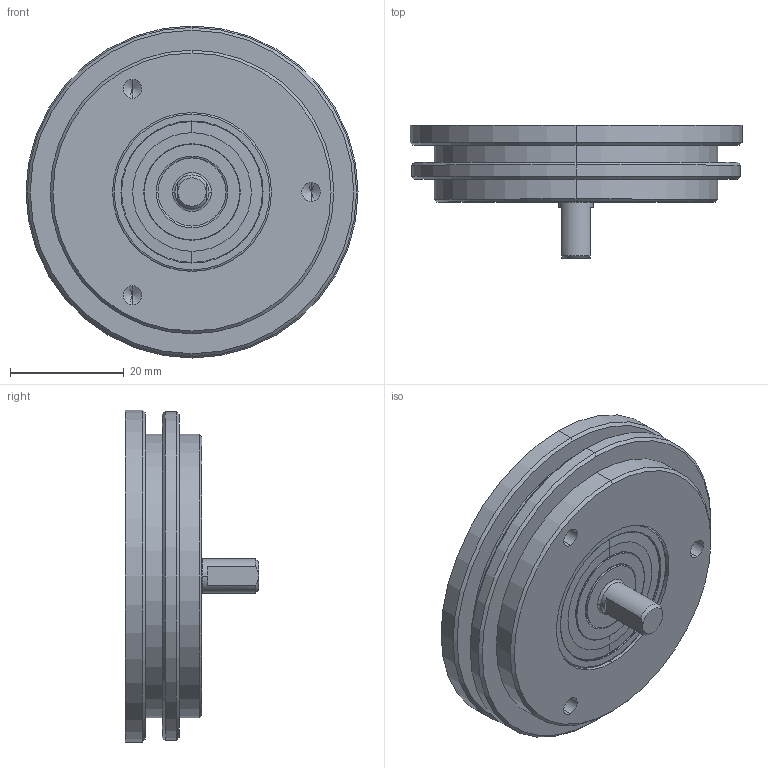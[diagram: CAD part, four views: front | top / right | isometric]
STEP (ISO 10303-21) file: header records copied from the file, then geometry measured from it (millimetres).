
FILE_DESCRIPTION (( 'STEP AP203' ), '1' );
FILE_NAME ('OCD-SA10-C5Y-N.STEP', '2013-09-26T07:27:31', ( 'Admin' ), ( 'Microsoft' ), 'SwSTEP 2.0', 'SolidWorks 2006104', '' );
FILE_SCHEMA (( 'CONFIG_CONTROL_DESIGN' ));
Length unit declared in the file: millimetre
Products named in the file (1): OCD-SA10-C5Y-N
Bounding box: 58.5 x 23.5 x 58.5 mm (x, y, z)
Volume: 28646.2 mm3; surface area: 15812.4 mm2
Topology: 14 solids, 15 shells, 188 faces, 410 edges, 249 vertices
Faces by surface type: cylinder 58, torus 38, cone 34, sphere 32, plane 26
Entity records: 4953 total; most frequent: DIRECTION 1002, CARTESIAN_POINT 798, ORIENTED_EDGE 728, AXIS2_PLACEMENT_3D 453, EDGE_CURVE 364, CIRCLE 264, VERTEX_POINT 225, EDGE_LOOP 219
